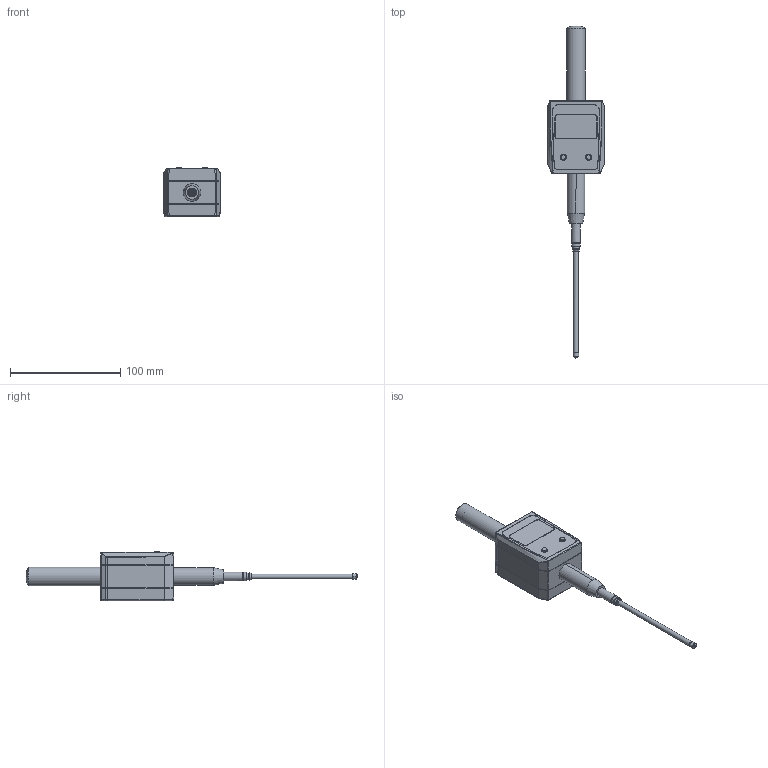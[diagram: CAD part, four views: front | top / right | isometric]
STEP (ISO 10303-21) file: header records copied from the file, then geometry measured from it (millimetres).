
FILE_DESCRIPTION(/* description */ (''),/* implementation_level */ '2;1');
FILE_NAME(/* name */ '50防水测头无线款.stp',/* time_stamp */ '2026-01-21T11:52:42+08:00',/* author */ (''),/* organization */ (''),/* preprocessor_version */ 'ST-DEVELOPER v16.7',/* originating_system */ 'SIEMENS PLM Software NX 1919',/* authorisation */ '');
FILE_SCHEMA (('AUTOMOTIVE_DESIGN { 1 0 10303 214 3 1 1 1 }'));
Length unit declared in the file: millimetre
Products named in the file (1): jzBA7C524370gs
Bounding box: 51.2 x 300.66 x 45.1 mm (x, y, z)
Volume: 170940 mm3; surface area: 28955.9 mm2
Topology: 1 solids, 13 shells, 366 faces, 865 edges, 557 vertices
Faces by surface type: plane 157, cylinder 118, bspline 50, cone 19, sphere 12, extrusion 8, torus 2
Full cylindrical faces by diameter (mm): 0.9 x1, 1.7 x5, 2 x5, 3 x1, 4.4 x2, 4.5 x7, 5 x1, 5.25 x2, 5.5 x1, 5.65 x2, 6.1 x3, 6.5 x1, 6.7 x1, 7 x1, 7.9 x1, 8 x2, 13.5 x1, 14 x2, 15 x1, 15.8 x1, 17 x1
Entity records: 11707 total; most frequent: CARTESIAN_POINT 3822, DIRECTION 1591, ORIENTED_EDGE 1542, EDGE_CURVE 771, AXIS2_PLACEMENT_3D 620, VERTEX_POINT 529, EDGE_LOOP 469, ADVANCED_FACE 366
